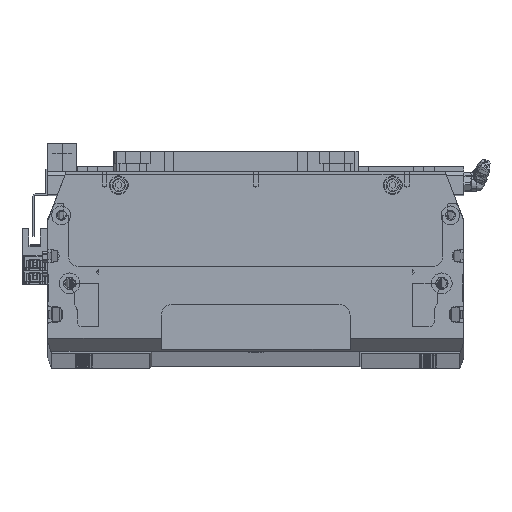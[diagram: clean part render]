
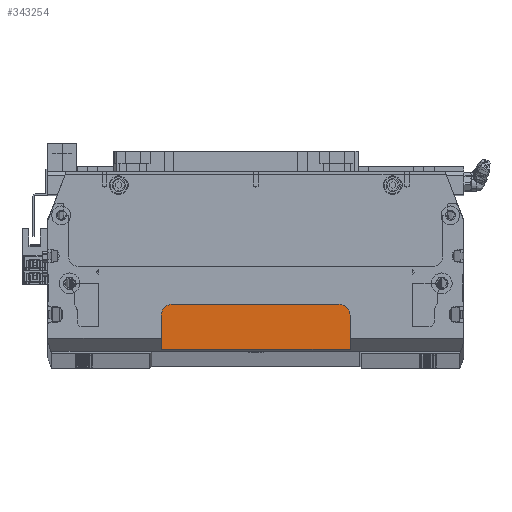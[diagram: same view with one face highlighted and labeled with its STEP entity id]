
A CAD part, top view. The second image highlights one B-rep face of the part: STEP entity #343254.
In plain terms, the highlighted planar face has unit normal (0, 0, 1) as drawn and (0, 1, 0) by its records, which use the part's own axes.
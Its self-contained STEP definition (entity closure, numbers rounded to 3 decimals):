
#9408 = VERTEX_POINT ( 'NONE', #375020 ) ;
#12057 = ORIENTED_EDGE ( 'NONE', *, *, #27256, .F. ) ;
#23810 = CARTESIAN_POINT ( 'NONE',  ( 0., 8., 0. ) ) ;
#27256 = EDGE_CURVE ( 'NONE', #372135, #258515, #123313, .T. ) ;
#42010 = CARTESIAN_POINT ( 'NONE',  ( 44., 8., 39.25 ) ) ;
#52779 = DIRECTION ( 'NONE',  ( -1., 0., 0. ) ) ;
#54434 = EDGE_CURVE ( 'NONE', #451345, #77035, #310507, .T. ) ;
#61344 = DIRECTION ( 'NONE',  ( 0., -1., 0. ) ) ;
#66109 = ORIENTED_EDGE ( 'NONE', *, *, #436388, .T. ) ;
#66915 = LINE ( 'NONE', #360268, #218902 ) ;
#75516 = ORIENTED_EDGE ( 'NONE', *, *, #407057, .T. ) ;
#77035 = VERTEX_POINT ( 'NONE', #137544 ) ;
#104411 = FACE_OUTER_BOUND ( 'NONE', #261058, .T. ) ;
#121851 = DIRECTION ( 'NONE',  ( 0., 0., -1. ) ) ;
#123313 = LINE ( 'NONE', #132892, #409918 ) ;
#127668 = VECTOR ( 'NONE', #263813, 1000. ) ;
#131637 = AXIS2_PLACEMENT_3D ( 'NONE', #42010, #256097, #146616 ) ;
#132892 = CARTESIAN_POINT ( 'NONE',  ( 110., 8., 57.25 ) ) ;
#137544 = CARTESIAN_POINT ( 'NONE',  ( -50., 8., 39.25 ) ) ;
#146616 = DIRECTION ( 'NONE',  ( 0., 0., -1. ) ) ;
#152725 = CARTESIAN_POINT ( 'NONE',  ( -50., 8., 58.25 ) ) ;
#205821 = VERTEX_POINT ( 'NONE', #317502 ) ;
#206657 = DIRECTION ( 'NONE',  ( -1., 0., 0. ) ) ;
#218902 = VECTOR ( 'NONE', #206657, 1000. ) ;
#232171 = CARTESIAN_POINT ( 'NONE',  ( -44., 8., 39.25 ) ) ;
#235998 = CARTESIAN_POINT ( 'NONE',  ( 50., 8., 57.25 ) ) ;
#256097 = DIRECTION ( 'NONE',  ( 0., 1., 0. ) ) ;
#258515 = VERTEX_POINT ( 'NONE', #459134 ) ;
#261058 = EDGE_LOOP ( 'NONE', ( #385750, #75516, #66109, #422653, #361208, #12057 ) ) ;
#263813 = DIRECTION ( 'NONE',  ( 0., 0., 1. ) ) ;
#268160 = DIRECTION ( 'NONE',  ( 0., 1., 0. ) ) ;
#281839 = AXIS2_PLACEMENT_3D ( 'NONE', #232171, #268160, #300908 ) ;
#285774 = LINE ( 'NONE', #152725, #127668 ) ;
#300908 = DIRECTION ( 'NONE',  ( 0., 0., -1. ) ) ;
#308194 = CARTESIAN_POINT ( 'NONE',  ( 50., 8., 58.25 ) ) ;
#310507 = CIRCLE ( 'NONE', #281839, 6. ) ;
#317502 = CARTESIAN_POINT ( 'NONE',  ( 50., 8., 39.25 ) ) ;
#328198 = VECTOR ( 'NONE', #121851, 1000. ) ;
#333109 = EDGE_CURVE ( 'NONE', #372135, #205821, #433698, .T. ) ;
#343254 = ADVANCED_FACE ( 'NONE', ( #104411 ), #432534, .F. ) ;
#344094 = EDGE_CURVE ( 'NONE', #77035, #258515, #285774, .T. ) ;
#358183 = CIRCLE ( 'NONE', #131637, 6. ) ;
#360268 = CARTESIAN_POINT ( 'NONE',  ( -50., 8., 33.25 ) ) ;
#361208 = ORIENTED_EDGE ( 'NONE', *, *, #344094, .T. ) ;
#365400 = DIRECTION ( 'NONE',  ( 0., 0., -1. ) ) ;
#372135 = VERTEX_POINT ( 'NONE', #235998 ) ;
#374781 = CARTESIAN_POINT ( 'NONE',  ( -44., 8., 33.25 ) ) ;
#375020 = CARTESIAN_POINT ( 'NONE',  ( 44., 8., 33.25 ) ) ;
#385750 = ORIENTED_EDGE ( 'NONE', *, *, #333109, .T. ) ;
#407057 = EDGE_CURVE ( 'NONE', #205821, #9408, #358183, .T. ) ;
#409918 = VECTOR ( 'NONE', #52779, 1000. ) ;
#422653 = ORIENTED_EDGE ( 'NONE', *, *, #54434, .T. ) ;
#432534 = PLANE ( 'NONE',  #434527 ) ;
#433698 = LINE ( 'NONE', #308194, #328198 ) ;
#434527 = AXIS2_PLACEMENT_3D ( 'NONE', #23810, #61344, #365400 ) ;
#436388 = EDGE_CURVE ( 'NONE', #9408, #451345, #66915, .T. ) ;
#451345 = VERTEX_POINT ( 'NONE', #374781 ) ;
#459134 = CARTESIAN_POINT ( 'NONE',  ( -50., 8., 57.25 ) ) ;
